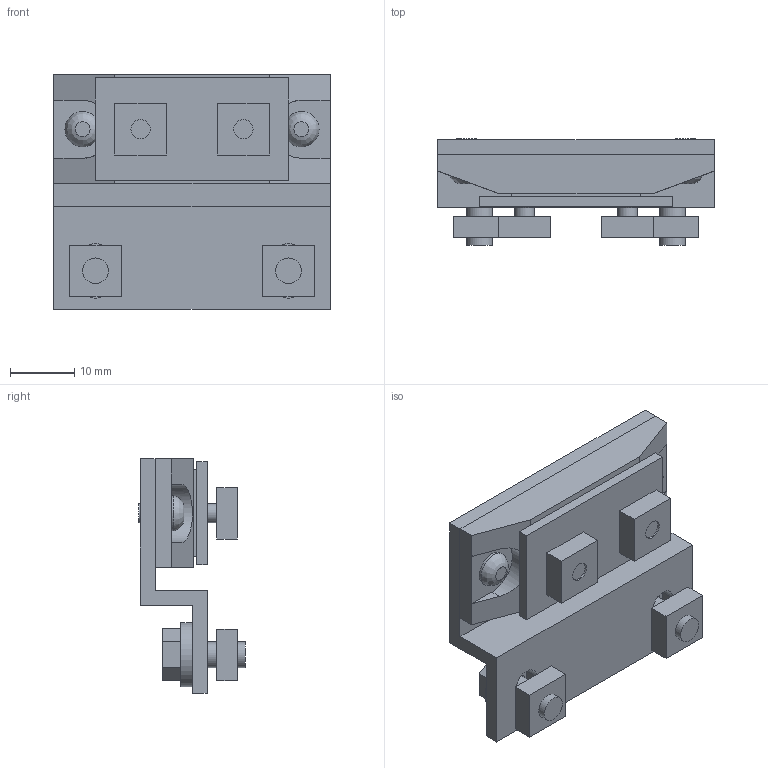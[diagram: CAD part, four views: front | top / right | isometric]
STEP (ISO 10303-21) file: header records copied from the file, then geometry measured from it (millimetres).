
FILE_DESCRIPTION((''),'2;1');
FILE_NAME('C:\Documents and Settings\古川典政\My Documents\Inventor\HP用\MasterData\ACCESSORY\M4\DMCS-04.stp','2008-08-05T11:46:45',(''),(''),'Autodesk Inventor 2008','Autodesk Inventor 2008','');
FILE_SCHEMA(('CONFIG_CONTROL_DESIGN'));
Length unit declared in the file: millimetre
Products named in the file (14): DMCS-04; DMCS-041; DMCS-042; DMCS-043; DMCS-044; DMCS-045; DMCS-046; DMCS-047; DMCS-048; DMCS-049; DMCS-0410; DMCS-0411; DMCS-0412; DMCS-0413
Assembly tree (13 placements, depth 2):
  DMCS-04
    DMCS-041
    DMCS-042
    DMCS-043
    DMCS-044
    DMCS-045
    DMCS-046
    DMCS-047
    DMCS-048
    DMCS-049
    DMCS-0410
    DMCS-0411
    DMCS-0412
    DMCS-0413
Bounding box: 43 x 16.5 x 36.5 mm (x, y, z)
Volume: 10299.8 mm3; surface area: 9766.9 mm2
Topology: 13 solids, 13 shells, 129 faces, 284 edges, 190 vertices
Faces by surface type: plane 90, cylinder 18, bspline 18, cone 3
Full cylindrical faces by diameter (mm): 3 x5, 3.4 x1, 3.5 x1, 4 x2, 4.3 x2, 5.5 x2, 10 x2
Entity records: 3950 total; most frequent: CARTESIAN_POINT 868, DIRECTION 582, ORIENTED_EDGE 488, EDGE_CURVE 244, AXIS2_PLACEMENT_3D 200, EDGE_LOOP 190, VECTOR 182, LINE 182
